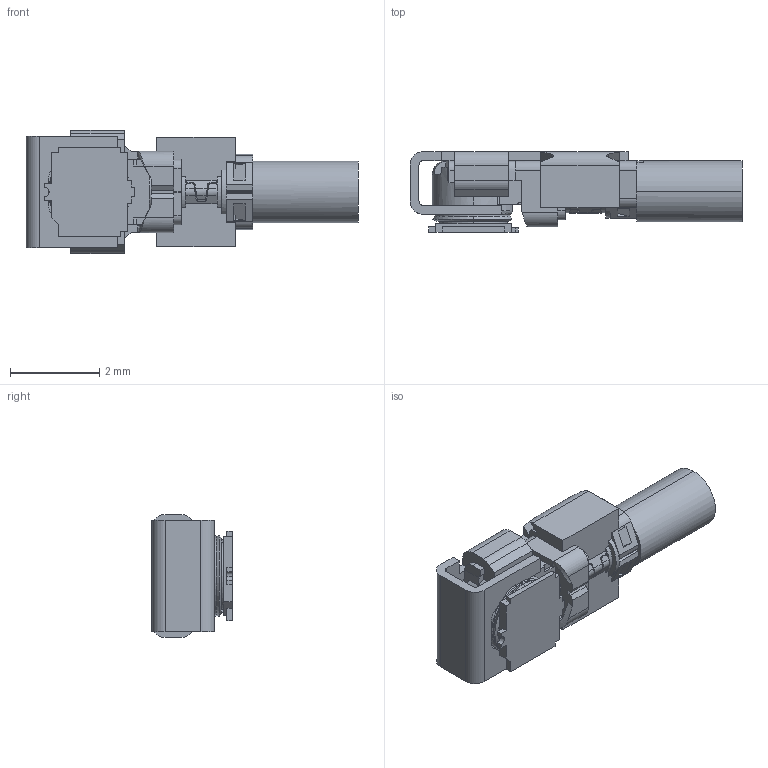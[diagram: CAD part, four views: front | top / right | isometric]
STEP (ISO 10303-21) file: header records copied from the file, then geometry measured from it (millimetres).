
FILE_DESCRIPTION (( 'STEP AP203' ), '1' );
FILE_NAME ('20632-001R-37+3615-000x+20449-001E-xxC MATING (LOCK) STEP R1R4R5 ALL.STEP', '2023-11-08T05:11:30', ( '' ), ( '' ), 'SwSTEP 2.0', 'SolidWorks 2023', '' );
FILE_SCHEMA (( 'CONFIG_CONTROL_DESIGN' ));
Length unit declared in the file: millimetre
Products named in the file (1): 20632-001R-37+3615-000x+20449-001E-xxC MATING (LOCK) STEP R1R4R5 ALL
Bounding box: 7.42 x 1.8 x 2.75 mm (x, y, z)
Volume: 18.6 mm3; surface area: 75.3 mm2
Topology: 1 solids, 1 shells, 349 faces, 1030 edges, 675 vertices
Faces by surface type: plane 237, cylinder 93, cone 11, torus 4, bspline 4
Entity records: 12327 total; most frequent: CARTESIAN_POINT 2997, ORIENTED_EDGE 2060, DIRECTION 1816, EDGE_CURVE 1030, LINE 724, VECTOR 724, VERTEX_POINT 675, AXIS2_PLACEMENT_3D 546
